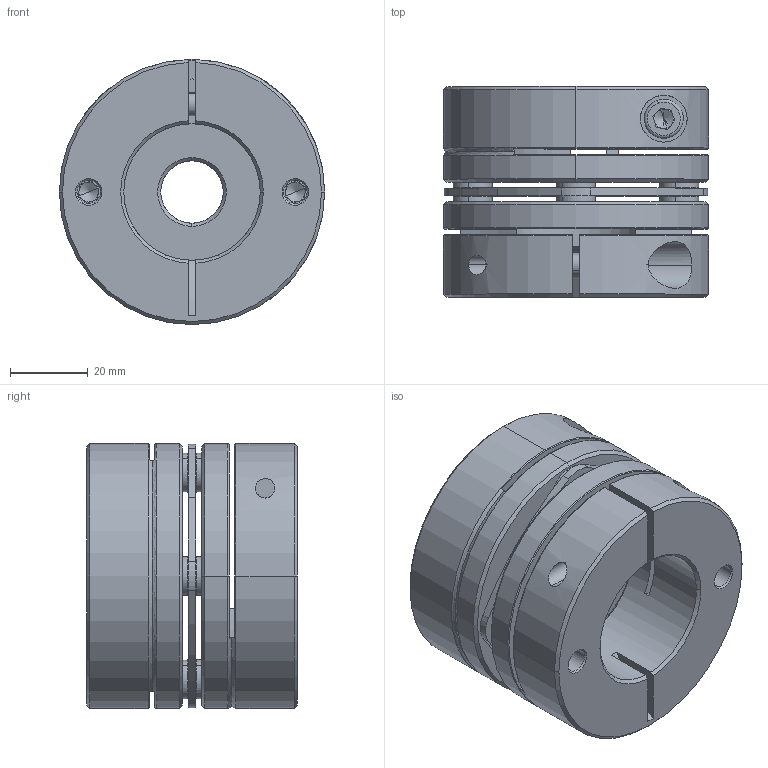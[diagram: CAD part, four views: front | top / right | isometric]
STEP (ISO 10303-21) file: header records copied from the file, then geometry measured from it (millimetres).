
FILE_DESCRIPTION (( 'STEP AP203' ), '1' );
FILE_NAME ('LD1-D68-16-35.STEP', '2021-10-26T07:50:22', ( '' ), ( '' ), 'SwSTEP 2.0', 'SolidWorks 2018', '' );
FILE_SCHEMA (( 'CONFIG_CONTROL_DESIGN' ));
Length unit declared in the file: millimetre
Products named in the file (2): 錨璃101^LD1-D68; LD1-D68-16-35
Assembly tree (1 placements, depth 2):
  LD1-D68-16-35
    錨璃101^LD1-D68
Bounding box: 68 x 54 x 68 mm (x, y, z)
Volume: 138747.5 mm3; surface area: 45566.5 mm2
Topology: 1 solids, 15 shells, 443 faces, 1063 edges, 652 vertices
Faces by surface type: cylinder 161, plane 138, cone 122, torus 22
Entity records: 13477 total; most frequent: CARTESIAN_POINT 2615, DIRECTION 2435, ORIENTED_EDGE 2094, EDGE_CURVE 1047, AXIS2_PLACEMENT_3D 988, VERTEX_POINT 652, CIRCLE 541, EDGE_LOOP 523
